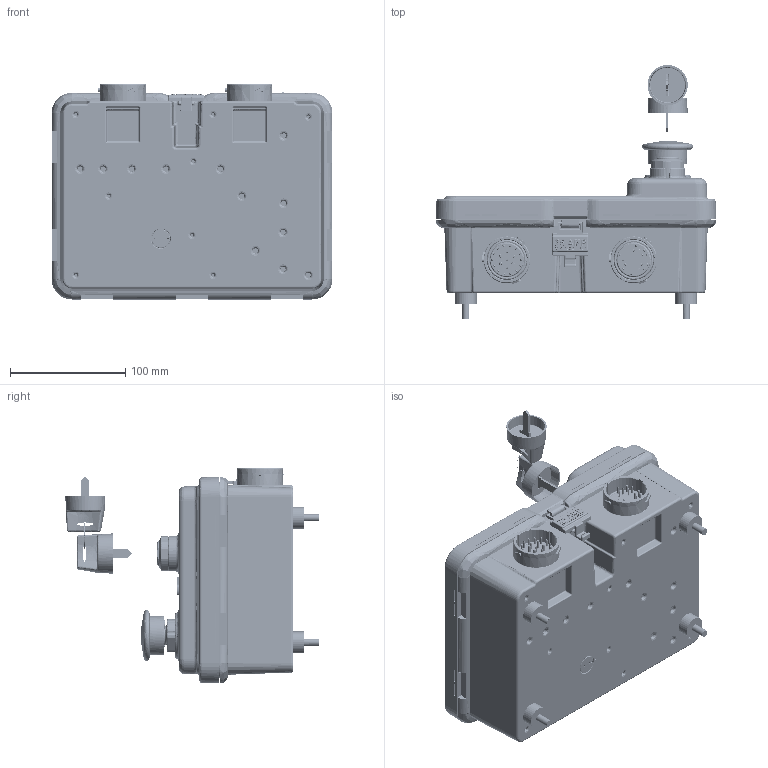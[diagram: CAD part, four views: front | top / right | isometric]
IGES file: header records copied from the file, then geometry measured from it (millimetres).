
Start section: SolidWorks IGES file using analytic representation for surfaces
Global section: file name: C:\Users\csiebert\Desktop\POWERCORE TEC-10.IGS; native system: SolidWorks 2015; preprocessor: SolidWorks 2015; author: csiebert; date: 160309.114624; units: inch
Bounding box: 243.48 x 220.21 x 186.5 mm (x, y, z)
Surface area: 218388.6 mm2 (no closed solid volume)
Topology: 0 solids, 0 shells, 6628 faces, 69791 edges, 86420 vertices
Faces by surface type: bspline 4919, revolution 1709
